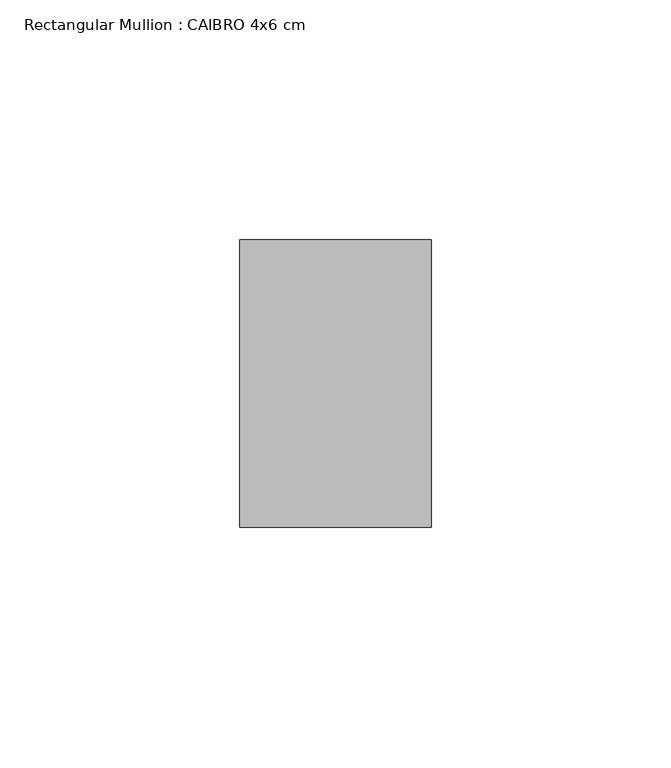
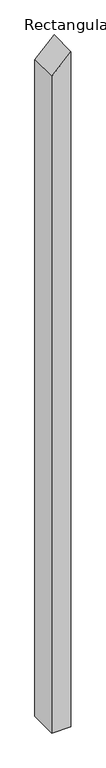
"""IFC4 building model written with IfcOpenShell, lengths in millimetres: member geometry, Rectangular Mullion : CAIBRO 4x6 cm."""

from ifc_helpers import new_model, si_unit, frame, origin, place, context, project, spatial, polyline, outline, extrude, source, transform, mapped, element, save


def rectangular_mullion_caibro_4x6_cm_96e98732(model_context):
    return source(origin(), model_context, "Body", "SweptSolid", [
        extrude(outline(polyline([(-36.6621022, 20.0), (-77.109599, -20.0), (-1514.3826176, -20.0), (-1514.3826176, 20.0), (-36.6621022, 20.0)])), frame((0.0, 0.0, 0.0), z_axis=(0.0, 1.0, 0.0), x_axis=(0.0, 0.0, 1.0)), (0.0, 0.0, 1.0), 60.0),
    ])


if __name__ == "__main__":
    model = new_model("IFC4")
    model_context = context("Model", 3, world=origin())
    ifc_project = project(units=[si_unit("LENGTHUNIT", "METRE", prefix="MILLI")], contexts=[model_context])
    site = spatial("IfcSite", under=ifc_project)
    building = spatial("IfcBuilding", under=site)
    placement = place(None, origin())
    rectangular_mullion_caibro_4x6_cm_shape = rectangular_mullion_caibro_4x6_cm_96e98732(model_context)
    element("IfcMember", 1, ObjectType="Rectangular Mullion : CAIBRO 4x6 cm", at=placement, inside=building, context=model_context, shape_type="MappedRepresentation", body=[
        mapped(rectangular_mullion_caibro_4x6_cm_shape, transform((0.0, 0.0, 0.0), x_axis=(1.0, 0.0, 0.0), y_axis=(0.0, 1.0, 0.0), z_axis=(0.0, 0.0, 1.0))),
    ])
    save(model, "model.ifc")
